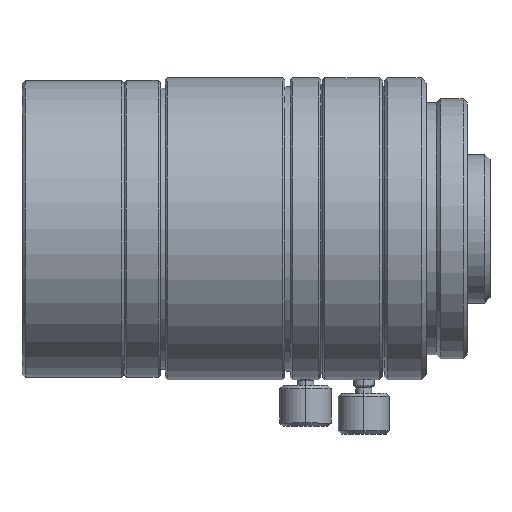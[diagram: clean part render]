
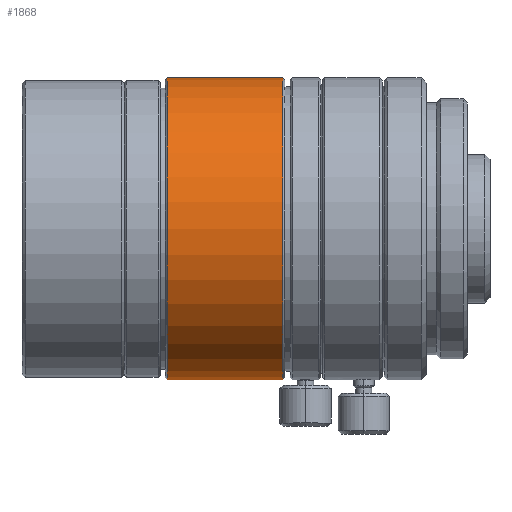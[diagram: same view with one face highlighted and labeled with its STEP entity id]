
A CAD part, top view. The second image highlights one B-rep face of the part: STEP entity #1868.
In plain terms, the highlighted cylindrical face has radius 14.75 mm (diameter 29.5 mm), a partial arc.
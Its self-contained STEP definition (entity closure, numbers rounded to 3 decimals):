
#40 = EDGE_CURVE ( 'NONE', #1193, #539, #2480, .T. ) ;
#271 = CARTESIAN_POINT ( 'NONE',  ( -31.5, -14.75, 0. ) ) ;
#325 = CARTESIAN_POINT ( 'NONE',  ( -31.5, 0., 0. ) ) ;
#539 = VERTEX_POINT ( 'NONE', #2114 ) ;
#791 = CARTESIAN_POINT ( 'NONE',  ( -54.81, 14.75, 0. ) ) ;
#1056 = CARTESIAN_POINT ( 'NONE',  ( -42.8, 14.75, 0. ) ) ;
#1193 = VERTEX_POINT ( 'NONE', #271 ) ;
#1274 = DIRECTION ( 'NONE',  ( 0., -1., 0. ) ) ;
#1330 = ORIENTED_EDGE ( 'NONE', *, *, #1756, .T. ) ;
#1340 = EDGE_CURVE ( 'NONE', #1193, #2727, #3511, .T. ) ;
#1399 = ORIENTED_EDGE ( 'NONE', *, *, #1402, .F. ) ;
#1402 = EDGE_CURVE ( 'NONE', #539, #2288, #1701, .T. ) ;
#1483 = AXIS2_PLACEMENT_3D ( 'NONE', #325, #1488, #1274 ) ;
#1488 = DIRECTION ( 'NONE',  ( -1., 0., 0. ) ) ;
#1610 = AXIS2_PLACEMENT_3D ( 'NONE', #1684, #1978, #1956 ) ;
#1646 = ORIENTED_EDGE ( 'NONE', *, *, #1340, .T. ) ;
#1684 = CARTESIAN_POINT ( 'NONE',  ( -54.81, 0., 0. ) ) ;
#1701 = CIRCLE ( 'NONE', #2264, 14.75 ) ;
#1751 = FACE_OUTER_BOUND ( 'NONE', #1959, .T. ) ;
#1756 = EDGE_CURVE ( 'NONE', #2727, #2288, #2874, .T. ) ;
#1868 = ADVANCED_FACE ( 'NONE', ( #1751 ), #3197, .T. ) ;
#1956 = DIRECTION ( 'NONE',  ( 0., -1., 0. ) ) ;
#1959 = EDGE_LOOP ( 'NONE', ( #1646, #1330, #1399, #3798 ) ) ;
#1978 = DIRECTION ( 'NONE',  ( -1., 0., 0. ) ) ;
#2090 = CARTESIAN_POINT ( 'NONE',  ( -31.5, 14.75, 0. ) ) ;
#2107 = VECTOR ( 'NONE', #3368, 1000. ) ;
#2114 = CARTESIAN_POINT ( 'NONE',  ( -42.8, -14.75, 0. ) ) ;
#2264 = AXIS2_PLACEMENT_3D ( 'NONE', #2707, #2610, #2677 ) ;
#2288 = VERTEX_POINT ( 'NONE', #1056 ) ;
#2387 = VECTOR ( 'NONE', #3710, 1000. ) ;
#2480 = LINE ( 'NONE', #3730, #2387 ) ;
#2610 = DIRECTION ( 'NONE',  ( -1., 0., 0. ) ) ;
#2677 = DIRECTION ( 'NONE',  ( 0., -1., 0. ) ) ;
#2707 = CARTESIAN_POINT ( 'NONE',  ( -42.8, 0., 0. ) ) ;
#2727 = VERTEX_POINT ( 'NONE', #2090 ) ;
#2874 = LINE ( 'NONE', #791, #2107 ) ;
#3197 = CYLINDRICAL_SURFACE ( 'NONE', #1610, 14.75 ) ;
#3368 = DIRECTION ( 'NONE',  ( -1., 0., 0. ) ) ;
#3511 = CIRCLE ( 'NONE', #1483, 14.75 ) ;
#3710 = DIRECTION ( 'NONE',  ( -1., 0., 0. ) ) ;
#3730 = CARTESIAN_POINT ( 'NONE',  ( -54.81, -14.75, 0. ) ) ;
#3798 = ORIENTED_EDGE ( 'NONE', *, *, #40, .F. ) ;
